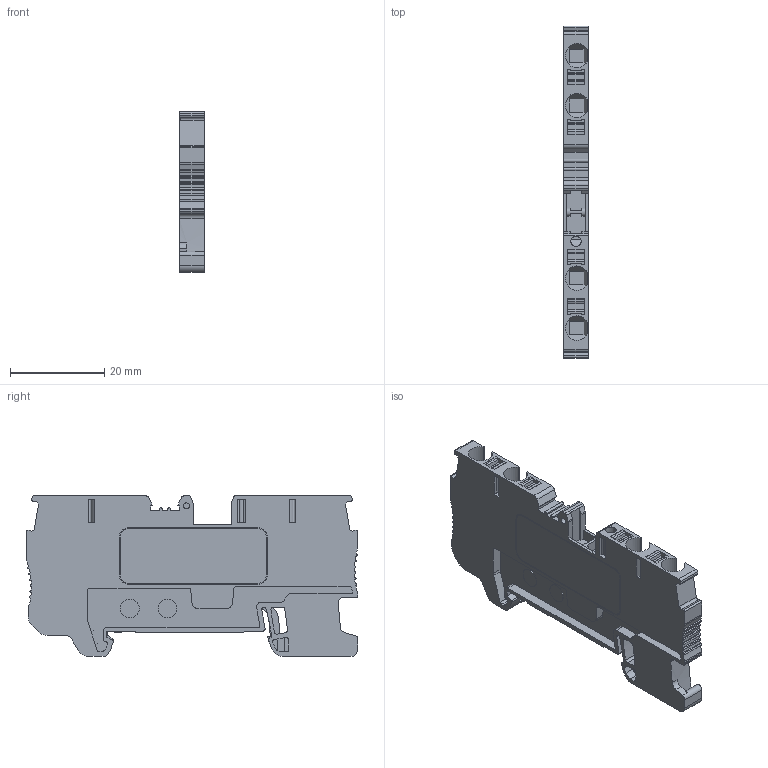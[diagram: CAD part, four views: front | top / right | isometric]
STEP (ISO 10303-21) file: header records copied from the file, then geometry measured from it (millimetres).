
FILE_DESCRIPTION(('Open CASCADE Model'),'2;1');
FILE_NAME('Open CASCADE Shape Model','2022-10-26T15:01:29',('Author'),( 'Open CASCADE'),'Open CASCADE STEP processor 6.5','Open CASCADE 6.5' ,'Unknown');
FILE_SCHEMA(('AUTOMOTIVE_DESIGN { 1 0 10303 214 1 1 1 1 }'));
Length unit declared in the file: millimetre
Products named in the file (2033): CADSOFTTOOLS 1; CADSOFTTOOLS 1.1; CADSOFTTOOLS 1.2; CADSOFTTOOLS 1.3; CADSOFTTOOLS 1.4; CADSOFTTOOLS 1.5; CADSOFTTOOLS 1.6; CADSOFTTOOLS 1.7; CADSOFTTOOLS 1.8; CADSOFTTOOLS 1.9; CADSOFTTOOLS 1.10; CADSOFTTOOLS 1.11; CADSOFTTOOLS 1.12; CADSOFTTOOLS 1.13; CADSOFTTOOLS 1.14; CADSOFTTOOLS 1.15; CADSOFTTOOLS 1.16; CADSOFTTOOLS 1.17; CADSOFTTOOLS 1.18; CADSOFTTOOLS 1.19; CADSOFTTOOLS 1.20; CADSOFTTOOLS 1.21; CADSOFTTOOLS 1.22; CADSOFTTOOLS 1.23; CADSOFTTOOLS 1.24; CADSOFTTOOLS 1.25; CADSOFTTOOLS 1.26; CADSOFTTOOLS 1.27; CADSOFTTOOLS 1.28; CADSOFTTOOLS 1.29; CADSOFTTOOLS 1.30; CADSOFTTOOLS 1.31; CADSOFTTOOLS 1.32; CADSOFTTOOLS 1.33; CADSOFTTOOLS 1.34; CADSOFTTOOLS 1.35; CADSOFTTOOLS 1.36; CADSOFTTOOLS 1.37; CADSOFTTOOLS 1.38; CADSOFTTOOLS 1.39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
Assembly tree (2032 placements, depth 2):
  CADSOFTTOOLS 1
    CADSOFTTOOLS 1.1
    CADSOFTTOOLS 1.2
    CADSOFTTOOLS 1.3
    CADSOFTTOOLS 1.4
    CADSOFTTOOLS 1.5
    CADSOFTTOOLS 1.6
    CADSOFTTOOLS 1.7
    CADSOFTTOOLS 1.8
    CADSOFTTOOLS 1.9
    CADSOFTTOOLS 1.10
    CADSOFTTOOLS 1.11
    CADSOFTTOOLS 1.12
    CADSOFTTOOLS 1.13
    CADSOFTTOOLS 1.14
    CADSOFTTOOLS 1.15
    CADSOFTTOOLS 1.16
    CADSOFTTOOLS 1.17
    CADSOFTTOOLS 1.18
    CADSOFTTOOLS 1.19
    CADSOFTTOOLS 1.20
    CADSOFTTOOLS 1.21
    CADSOFTTOOLS 1.22
    CADSOFTTOOLS 1.23
    CADSOFTTOOLS 1.24
    CADSOFTTOOLS 1.25
    CADSOFTTOOLS 1.26
    CADSOFTTOOLS 1.27
    CADSOFTTOOLS 1.28
    CADSOFTTOOLS 1.29
    CADSOFTTOOLS 1.30
    CADSOFTTOOLS 1.31
    CADSOFTTOOLS 1.32
    CADSOFTTOOLS 1.33
    CADSOFTTOOLS 1.34
    CADSOFTTOOLS 1.35
    CADSOFTTOOLS 1.36
    CADSOFTTOOLS 1.37
    CADSOFTTOOLS 1.38
    CADSOFTTOOLS 1.39
    CADSOFTTOOLS 1.40
    CADSOFTTOOLS 1.41
    CADSOFTTOOLS 1.42
    CADSOFTTOOLS 1.43
    CADSOFTTOOLS 1.44
    CADSOFTTOOLS 1.45
    CADSOFTTOOLS 1.46
    CADSOFTTOOLS 1.47
    CADSOFTTOOLS 1.48
    CADSOFTTOOLS 1.49
    CADSOFTTOOLS 1.50
    CADSOFTTOOLS 1.51
    CADSOFTTOOLS 1.52
    CADSOFTTOOLS 1.53
    CADSOFTTOOLS 1.54
    CADSOFTTOOLS 1.55
    CADSOFTTOOLS 1.56
    CADSOFTTOOLS 1.57
    CADSOFTTOOLS 1.58
    CADSOFTTOOLS 1.59
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Bounding box: 5.2 x 70.5 x 34.2 mm (x, y, z)
Surface area: 6656.3 mm2 (no closed solid volume)
Topology: 0 solids, 2032 shells, 2032 faces, 11880 edges, 11872 vertices
Faces by surface type: plane 1799, cylinder 232, cone 1
Full cylindrical faces by diameter (mm): 1 x1, 1.3 x1, 2.2 x1, 2.4 x1, 2.6 x1, 4 x2
Entity records: 241028 total; most frequent: CARTESIAN_POINT 47189, DIRECTION 31667, LINE 21158, VECTOR 21158, ORIENTED_EDGE 11888, PCURVE 11888, DEFINITIONAL_REPRESENTATION 11888, EDGE_CURVE 11880
